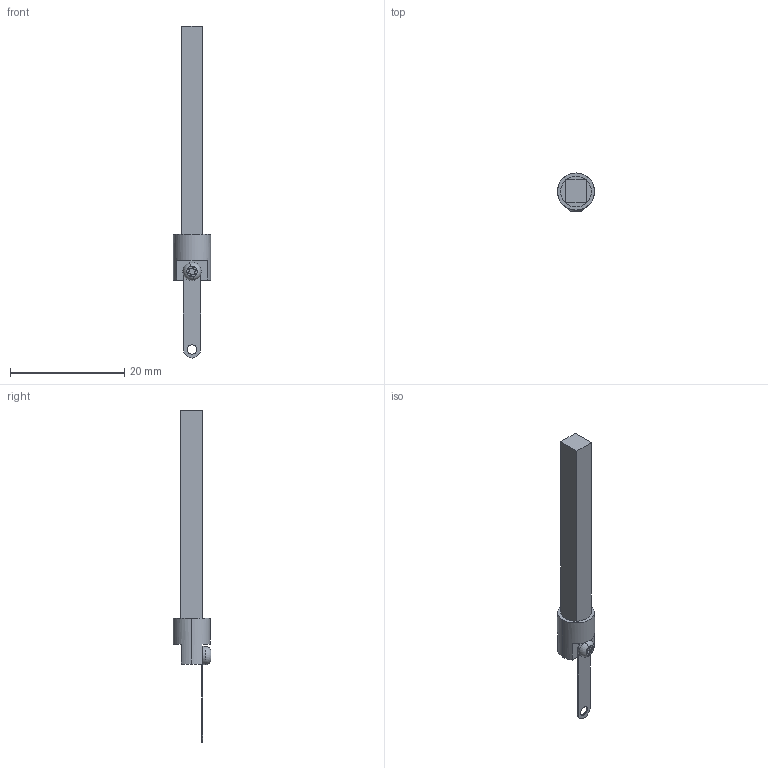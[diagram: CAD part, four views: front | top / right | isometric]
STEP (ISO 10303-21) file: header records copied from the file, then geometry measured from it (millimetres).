
FILE_DESCRIPTION (( 'STEP AP214' ), '1' );
FILE_NAME ('LL06_DriveRod_040M1-PiezoMotor.STEP', '2017-03-14T07:03:48', ( '' ), ( '' ), 'SwSTEP 2.0', 'SolidWorks 2016', '' );
FILE_SCHEMA (( 'AUTOMOTIVE_DESIGN' ));
Length unit declared in the file: millimetre
Products named in the file (1): LL06_DriveRod_040M1-PiezoMotor
Bounding box: 6.5 x 6.65 x 58.15 mm (x, y, z)
Volume: 737.4 mm3; surface area: 1074.1 mm2
Topology: 4 solids, 4 shells, 62 faces, 145 edges, 93 vertices
Faces by surface type: cylinder 31, plane 21, cone 8, torus 2
Entity records: 1884 total; most frequent: DIRECTION 347, CARTESIAN_POINT 299, ORIENTED_EDGE 286, EDGE_CURVE 143, AXIS2_PLACEMENT_3D 141, VERTEX_POINT 93, CIRCLE 78, EDGE_LOOP 72
